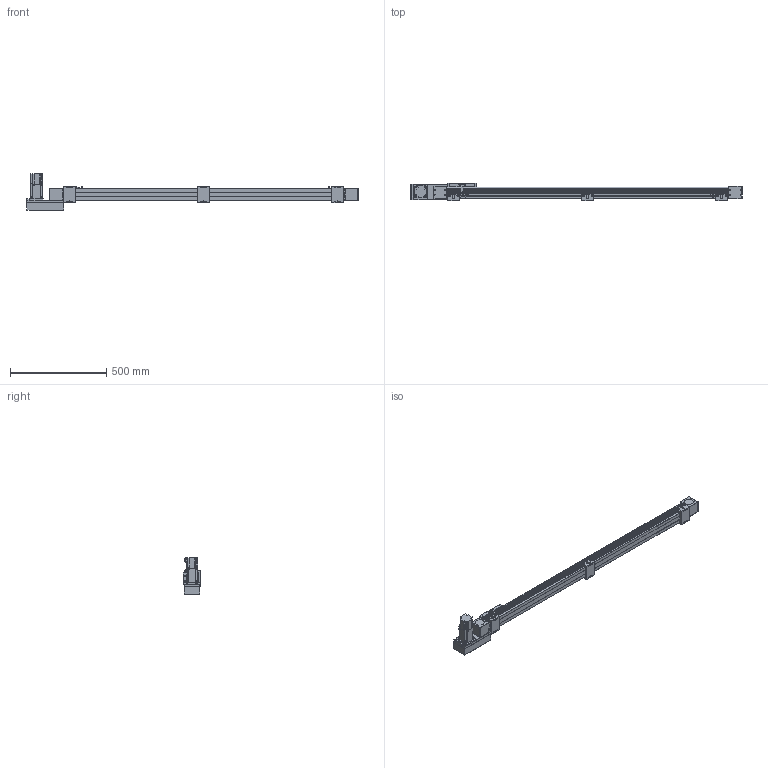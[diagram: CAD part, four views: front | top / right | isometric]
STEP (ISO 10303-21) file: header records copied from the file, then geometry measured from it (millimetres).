
FILE_DESCRIPTION(/* description */ ('STEP AP214'),/* implementation_level */ '2;1');
FILE_NAME(/* name */ 'SK60-P13-S1300-L-T40-C1-N(0)',/* time_stamp */ '2023-04-06T04:10:31+02:00',/* author */ ('License CC BY-ND 4.0'),/* organization */ ('CADENAS'),/* preprocessor_version */ 'ST-DEVELOPER v19.3',/* originating_system */ 'PARTsolutions',/* authorisation */ ' ');
FILE_SCHEMA (('AUTOMOTIVE_DESIGN {1 0 10303 214 3 1 1}'));
Length unit declared in the file: millimetre
Products named in the file (10): SK60-P13-S1300-L-T40-C1-N(0); PSC140-sensor; SK60-S450_seat; SK60-S450-BL-C1_slider; SK60_body3; SK60_body6; SK60-BL_body2; T40-p1; SK60-L_fb; SK60-S1300-L-C1_body
Assembly tree (17 placements, depth 2):
  SK60-P13-S1300-L-T40-C1-N(0)
    PSC140-sensor  x3
    SK60-S450_seat  x3
    SK60-S450-BL-C1_slider
    SK60_body3  x3
    SK60_body6  x2
    SK60-BL_body2  x2
    T40-p1
    SK60-L_fb
    SK60-S1300-L-C1_body
Bounding box: 1720.5 x 90 x 189.7 mm (x, y, z)
Volume: 6642521 mm3; surface area: 816596.9 mm2
Topology: 17 solids, 17 shells, 854 faces, 2146 edges, 1413 vertices
Faces by surface type: plane 548, cylinder 278, cone 26, torus 2
Full cylindrical faces by diameter (mm): 2.8 x3, 3.3 x4, 4 x2, 4.5 x30, 4.6 x3, 4.917 x20, 5 x6, 5.478 x4, 5.5 x23, 6.5 x6, 7 x2, 8 x4, 8.5 x4, 9.988 x4, 10 x12, 14 x1, 47 x3, 50 x2
Entity records: 18663 total; most frequent: DIRECTION 3186, CARTESIAN_POINT 3151, ORIENTED_EDGE 2940, EDGE_CURVE 1470, AXIS2_PLACEMENT_3D 1069, LINE 1048, VECTOR 1048, VERTEX_POINT 1034
